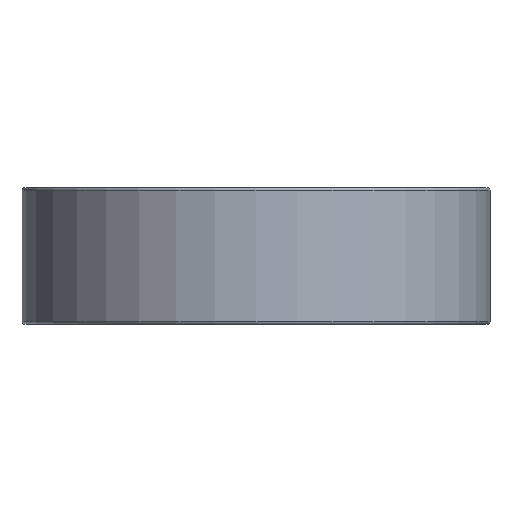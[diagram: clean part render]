
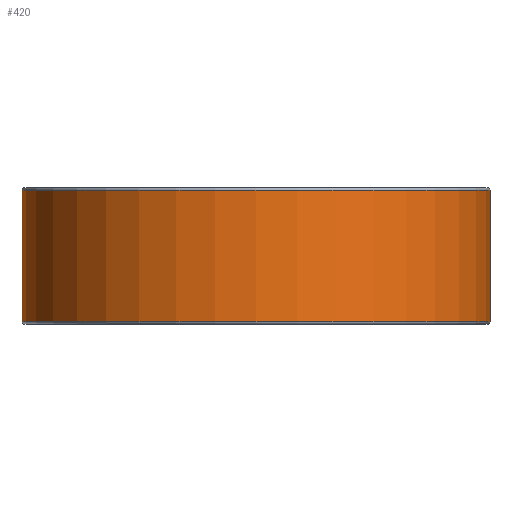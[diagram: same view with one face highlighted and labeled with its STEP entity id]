
A CAD part, front view. The second image highlights one B-rep face of the part: STEP entity #420.
In plain terms, the highlighted cylindrical face has radius 20.5 mm (diameter 41 mm), a full revolution.
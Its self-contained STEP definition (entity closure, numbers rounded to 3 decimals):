
#420=ADVANCED_FACE('',(#496,#497),#480,.T.);
#480=CYLINDRICAL_SURFACE('',#1119,20.5);
#496=FACE_BOUND('',#544,.T.);
#497=FACE_BOUND('',#545,.T.);
#544=EDGE_LOOP('',(#632));
#545=EDGE_LOOP('',(#633));
#632=ORIENTED_EDGE('',*,*,#948,.T.);
#633=ORIENTED_EDGE('',*,*,#949,.T.);
#864=VERTEX_POINT('',#1524);
#865=VERTEX_POINT('',#1526);
#948=EDGE_CURVE('',#864,#864,#1064,.T.);
#949=EDGE_CURVE('',#865,#865,#1065,.T.);
#1064=CIRCLE('',#1117,20.5);
#1065=CIRCLE('',#1118,20.5);
#1117=AXIS2_PLACEMENT_3D('',#1523,#1232,#1233);
#1118=AXIS2_PLACEMENT_3D('',#1525,#1234,#1235);
#1119=AXIS2_PLACEMENT_3D('',#1527,#1236,#1237);
#1232=DIRECTION('',(0.,0.,1.));
#1233=DIRECTION('',(1.,0.,0.));
#1234=DIRECTION('',(0.,0.,-1.));
#1235=DIRECTION('',(1.,0.,0.));
#1236=DIRECTION('',(0.,0.,-1.));
#1237=DIRECTION('',(-1.,0.,0.));
#1523=CARTESIAN_POINT('',(0.,0.,0.25));
#1524=CARTESIAN_POINT('',(20.5,0.,0.25));
#1525=CARTESIAN_POINT('',(0.,0.,11.75));
#1526=CARTESIAN_POINT('',(20.5,0.,11.75));
#1527=CARTESIAN_POINT('',(0.,0.,12.));
